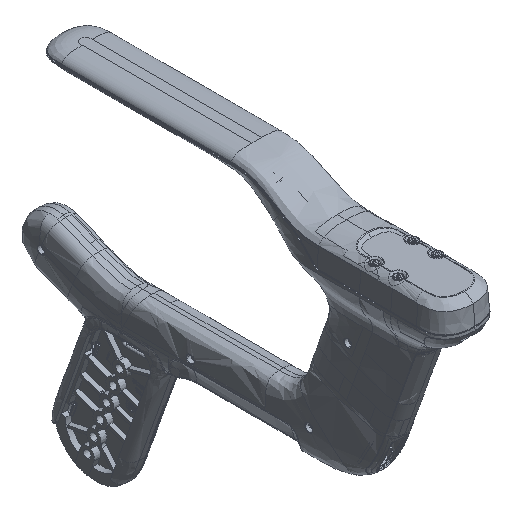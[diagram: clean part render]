
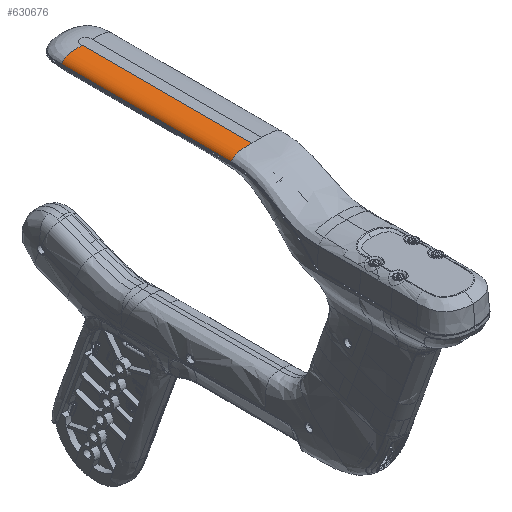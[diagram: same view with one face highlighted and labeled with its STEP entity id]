
A CAD part, isometric view. The second image highlights one B-rep face of the part: STEP entity #630676.
In plain terms, the highlighted free-form (B-spline) face has degree [3, 1] with [7, 3] control points.
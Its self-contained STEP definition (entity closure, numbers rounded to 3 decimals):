
#25658 = ORIENTED_EDGE ( 'NONE', *, *, #63674, .T. ) ;
#39955 = EDGE_CURVE ( 'NONE', #251027, #440659, #260773, .T. ) ;
#54646 = VERTEX_POINT ( 'NONE', #633242 ) ;
#63674 = EDGE_CURVE ( 'NONE', #54646, #615190, #110095, .T. ) ;
#97492 = CARTESIAN_POINT ( 'NONE',  ( 238.473, 212.236, 857.95 ) ) ;
#110095 = B_SPLINE_CURVE_WITH_KNOTS ( 'NONE', 3,
 ( #252909, #191470, #541443, #194640 ),
 .UNSPECIFIED., .F., .F.,
 ( 4, 4 ),
 ( 0., 1. ),
 .UNSPECIFIED. ) ;
#117671 = CARTESIAN_POINT ( 'NONE',  ( 247.72, 212.236, 857.95 ) ) ;
#141896 = CARTESIAN_POINT ( 'NONE',  ( 224.901, 212.236, 850.97 ) ) ;
#148129 = ORIENTED_EDGE ( 'NONE', *, *, #39955, .T. ) ;
#187391 = CARTESIAN_POINT ( 'NONE',  ( 224.88, 21.425, 850.901 ) ) ;
#191470 = CARTESIAN_POINT ( 'NONE',  ( 224.921, 149.262, 851.039 ) ) ;
#193762 = CARTESIAN_POINT ( 'NONE',  ( 224.86, 23.314, 850.832 ) ) ;
#194640 = CARTESIAN_POINT ( 'NONE',  ( 224.921, 23.314, 851.039 ) ) ;
#196946 = FACE_OUTER_BOUND ( 'NONE', #594488, .T. ) ;
#242010 = CARTESIAN_POINT ( 'NONE',  ( 224.921, 23.314, 851.039 ) ) ;
#251027 = VERTEX_POINT ( 'NONE', #594976 ) ;
#252909 = CARTESIAN_POINT ( 'NONE',  ( 224.921, 212.236, 851.039 ) ) ;
#260773 = B_SPLINE_CURVE_WITH_KNOTS ( 'NONE', 1,
 ( #263677, #117671 ),
 .UNSPECIFIED., .F., .F.,
 ( 2, 2 ),
 ( 0., 1. ),
 .UNSPECIFIED. ) ;
#263677 = CARTESIAN_POINT ( 'NONE',  ( 247.72, 23.314, 857.95 ) ) ;
#277194 = EDGE_CURVE ( 'NONE', #615190, #251027, #588807, .T. ) ;
#278115 = ORIENTED_EDGE ( 'NONE', *, *, #277194, .T. ) ;
#287884 = CARTESIAN_POINT ( 'NONE',  ( 224.921, 23.314, 851.039 ) ) ;
#292144 = CARTESIAN_POINT ( 'NONE',  ( 224.921, 212.236, 851.039 ) ) ;
#294286 = CARTESIAN_POINT ( 'NONE',  ( 238.473, 21.425, 857.95 ) ) ;
#339675 = CARTESIAN_POINT ( 'NONE',  ( 226.96, 23.314, 857.95 ) ) ;
#342857 = CARTESIAN_POINT ( 'NONE',  ( 224.88, 212.236, 850.901 ) ) ;
#346042 = CARTESIAN_POINT ( 'NONE',  ( 238.473, 23.314, 857.95 ) ) ;
#381529 = CARTESIAN_POINT ( 'NONE',  ( 238.473, 23.314, 857.95 ) ) ;
#385157 = CARTESIAN_POINT ( 'NONE',  ( 238.473, 212.236, 857.95 ) ) ;
#391502 = CARTESIAN_POINT ( 'NONE',  ( 224.86, 212.236, 850.832 ) ) ;
#394705 = CARTESIAN_POINT ( 'NONE',  ( 224.86, 21.425, 850.832 ) ) ;
#430599 = CARTESIAN_POINT ( 'NONE',  ( 247.72, 23.314, 857.95 ) ) ;
#433786 = CARTESIAN_POINT ( 'NONE',  ( 226.96, 21.425, 857.95 ) ) ;
#440659 = VERTEX_POINT ( 'NONE', #553490 ) ;
#443356 = CARTESIAN_POINT ( 'NONE',  ( 224.901, 23.314, 850.97 ) ) ;
#456409 = CARTESIAN_POINT ( 'NONE',  ( 224.921, 23.314, 851.039 ) ) ;
#458672 = B_SPLINE_CURVE_WITH_KNOTS ( 'NONE', 3,
 ( #532051, #97492, #538433, #292144 ),
 .UNSPECIFIED., .F., .F.,
 ( 4, 4 ),
 ( 0., 1. ),
 .UNSPECIFIED. ) ;
#482398 = CARTESIAN_POINT ( 'NONE',  ( 247.72, 21.425, 857.95 ) ) ;
#485599 = CARTESIAN_POINT ( 'NONE',  ( 224.921, 212.236, 851.039 ) ) ;
#488786 = CARTESIAN_POINT ( 'NONE',  ( 224.88, 23.314, 850.901 ) ) ;
#532051 = CARTESIAN_POINT ( 'NONE',  ( 247.72, 212.236, 857.95 ) ) ;
#538433 = CARTESIAN_POINT ( 'NONE',  ( 226.96, 212.236, 857.95 ) ) ;
#541443 = CARTESIAN_POINT ( 'NONE',  ( 224.921, 86.288, 851.039 ) ) ;
#553490 = CARTESIAN_POINT ( 'NONE',  ( 247.72, 212.236, 857.95 ) ) ;
#579246 = CARTESIAN_POINT ( 'NONE',  ( 247.72, 23.314, 857.95 ) ) ;
#582424 = CARTESIAN_POINT ( 'NONE',  ( 226.96, 23.314, 857.95 ) ) ;
#586057 = CARTESIAN_POINT ( 'NONE',  ( 224.901, 21.425, 850.97 ) ) ;
#588807 = B_SPLINE_CURVE_WITH_KNOTS ( 'NONE', 3,
 ( #242010, #582424, #381529, #579246 ),
 .UNSPECIFIED., .F., .F.,
 ( 4, 4 ),
 ( 0., 1. ),
 .UNSPECIFIED. ) ;
#589228 = CARTESIAN_POINT ( 'NONE',  ( 247.72, 212.236, 857.95 ) ) ;
#594488 = EDGE_LOOP ( 'NONE', ( #618490, #25658, #278115, #148129 ) ) ;
#594976 = CARTESIAN_POINT ( 'NONE',  ( 247.72, 23.314, 857.95 ) ) ;
#614575 = EDGE_CURVE ( 'NONE', #440659, #54646, #458672, .T. ) ;
#615190 = VERTEX_POINT ( 'NONE', #456409 ) ;
#618490 = ORIENTED_EDGE ( 'NONE', *, *, #614575, .T. ) ;
#630676 = ADVANCED_FACE ( 'NONE', ( #196946 ), #641586, .T. ) ;
#631524 = CARTESIAN_POINT ( 'NONE',  ( 226.96, 212.236, 857.95 ) ) ;
#633242 = CARTESIAN_POINT ( 'NONE',  ( 224.921, 212.236, 851.039 ) ) ;
#641060 = CARTESIAN_POINT ( 'NONE',  ( 224.921, 21.425, 851.039 ) ) ;
#641586 = B_SPLINE_SURFACE_WITH_KNOTS ( 'NONE', 3, 1, ( 
 ( #394705, #193762, #391502 ),
 ( #187391, #488786, #342857 ),
 ( #586057, #443356, #141896 ),
 ( #641060, #287884, #485599 ),
 ( #433786, #339675, #631524 ),
 ( #294286, #346042, #385157 ),
 ( #482398, #430599, #589228 ) ),
 .UNSPECIFIED., .F., .F., .F.,
 ( 4, 3, 4 ),
 ( 2, 1, 2 ),
 ( 0.014, 0.024, 0.981 ),
 ( -0.01, 0., 1. ),
 .UNSPECIFIED. ) ;
